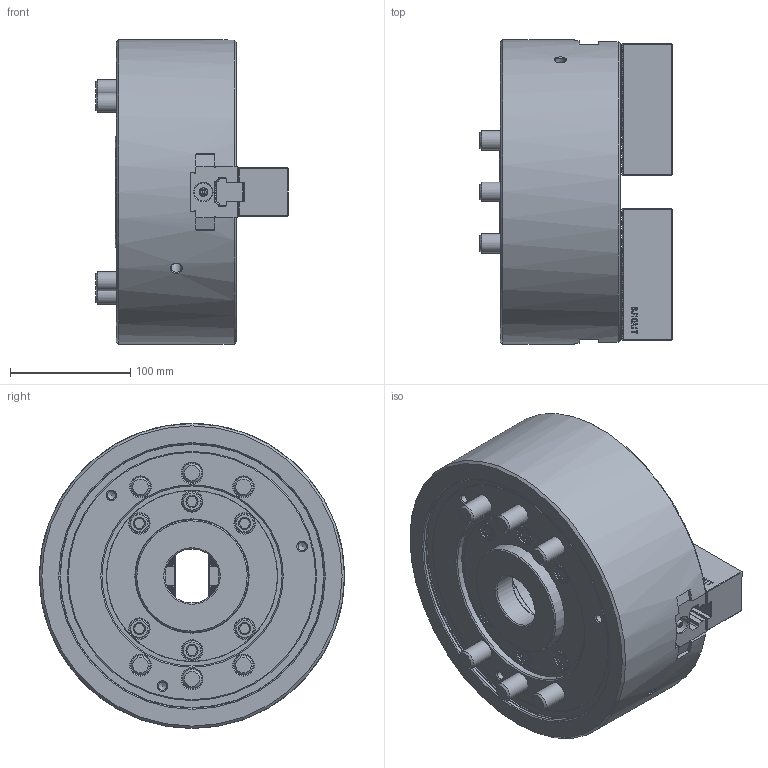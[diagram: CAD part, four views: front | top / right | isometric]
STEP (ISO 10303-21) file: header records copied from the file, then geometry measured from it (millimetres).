
FILE_DESCRIPTION (( 'STEP AP214' ), '1' );
FILE_NAME ('DT1_BT210_OUTSIDE_VIEW_HOL.STEP', '2024-05-09T01:04:35', ( '' ), ( '' ), 'SwSTEP 2.0', 'SolidWorks 2022', '' );
FILE_SCHEMA (( 'AUTOMOTIVE_DESIGN' ));
Length unit declared in the file: millimetre
Products named in the file (9): DT1_B210_DRAWNUT^DT1-BT210_ﾃﾞﾌｫﾙﾄ; DT1_B210_M6x10^DT1-BT210_ﾃﾞﾌｫﾙﾄ; DT1_B210_COVER^DT1-BT210_ﾃﾞﾌｫﾙﾄ; DT1_B210_M16x100^DT1-BT210_ﾃﾞﾌｫﾙﾄ; DT1_B210_SOFTJAW^DT1-BT210_ﾃﾞﾌｫﾙﾄ; DT1_BT210_OUTSIDE_VIEW_HOL; DT1_B210_BASE^DT1-BT210_ﾃﾞﾌｫﾙﾄ; DT1_B210_TNUT^DT1-BT210_ﾃﾞﾌｫﾙﾄ; DT1_B210_M12x30^DT1-BT210_ﾃﾞﾌｫﾙﾄ
Assembly tree (21 placements, depth 2):
  DT1_BT210_OUTSIDE_VIEW_HOL
    DT1_B210_SOFTJAW^DT1-BT210_ﾃﾞﾌｫﾙﾄ  x2
    DT1_B210_TNUT^DT1-BT210_ﾃﾞﾌｫﾙﾄ  x2
    DT1_B210_DRAWNUT^DT1-BT210_ﾃﾞﾌｫﾙﾄ
    DT1_B210_COVER^DT1-BT210_ﾃﾞﾌｫﾙﾄ
    DT1_B210_BASE^DT1-BT210_ﾃﾞﾌｫﾙﾄ
    DT1_B210_M6x10^DT1-BT210_ﾃﾞﾌｫﾙﾄ  x4
    DT1_B210_M12x30^DT1-BT210_ﾃﾞﾌｫﾙﾄ  x4
    DT1_B210_M16x100^DT1-BT210_ﾃﾞﾌｫﾙﾄ  x6
Bounding box: 160 x 254 x 254 mm (x, y, z)
Volume: 4741391 mm3; surface area: 457335.3 mm2
Topology: 21 solids, 25 shells, 3589 faces, 10078 edges, 6645 vertices
Faces by surface type: plane 2489, cylinder 676, bspline 209, cone 194, torus 19, sphere 2
Full cylindrical faces by diameter (mm): 2 x2, 5 x4, 6 x4, 6.6 x4, 6.8 x3, 8.5 x2, 10.2 x4, 10.5 x4, 11 x4, 12 x4, 13 x4, 15 x2, 16 x6, 17 x12, 18.27 x4, 19 x4, 24.33 x6, 26 x6, 45 x1, 75 x2, 79 x2, 80 x2, 86 x1, 94 x2, 142.7 x1, 150 x1, 220 x1, 221 x1, 254 x1
Entity records: 90676 total; most frequent: CARTESIAN_POINT 25802, ORIENTED_EDGE 14572, DIRECTION 11394, EDGE_CURVE 7286, VECTOR 5470, LINE 5470, VERTEX_POINT 4896, AXIS2_PLACEMENT_3D 2962
